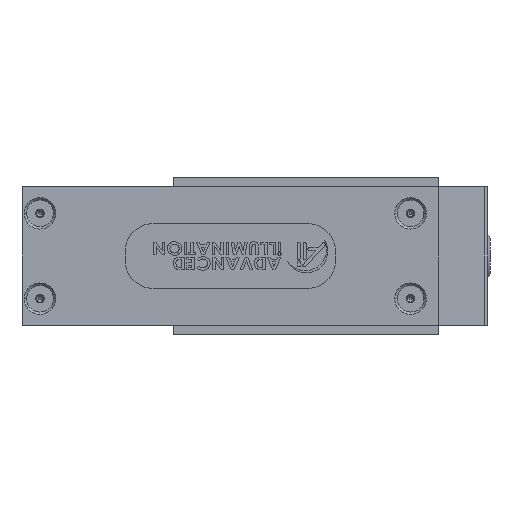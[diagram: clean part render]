
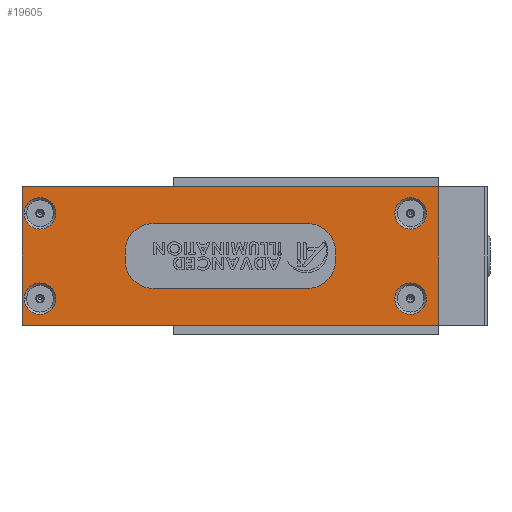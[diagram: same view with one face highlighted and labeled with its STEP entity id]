
A CAD part, left-side view. The second image highlights one B-rep face of the part: STEP entity #19605.
In plain terms, the highlighted planar face has unit normal (-1, 0, 0) as drawn and (0, 0, 1) by its records, which use the part's own axes.
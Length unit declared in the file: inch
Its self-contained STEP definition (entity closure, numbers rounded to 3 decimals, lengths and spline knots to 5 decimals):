
#173 = LINE ( 'NONE', #22856, #26326 ) ;
#481 = VERTEX_POINT ( 'NONE', #1664 ) ;
#636 = EDGE_CURVE ( 'NONE', #25179, #31763, #25381, .T. ) ;
#1089 = AXIS2_PLACEMENT_3D ( 'NONE', #17387, #1936, #23557 ) ;
#1101 = ORIENTED_EDGE ( 'NONE', *, *, #6135, .T. ) ;
#1664 = CARTESIAN_POINT ( 'NONE',  ( 0.3905, 0.238, 0. ) ) ;
#1828 = FACE_BOUND ( 'NONE', #31190, .T. ) ;
#1936 = DIRECTION ( 'NONE',  ( 0., 0., 1. ) ) ;
#2377 = DIRECTION ( 'NONE',  ( 0., 0., 1. ) ) ;
#2678 = VERTEX_POINT ( 'NONE', #38459 ) ;
#3170 = ORIENTED_EDGE ( 'NONE', *, *, #12051, .F. ) ;
#3646 = CIRCLE ( 'NONE', #11235, 0.1405 ) ;
#3693 = AXIS2_PLACEMENT_3D ( 'NONE', #36363, #2377, #24013 ) ;
#4048 = CIRCLE ( 'NONE', #3693, 0.1405 ) ;
#4111 = DIRECTION ( 'NONE',  ( 0., 0., 1. ) ) ;
#6135 = EDGE_CURVE ( 'NONE', #2678, #25179, #25618, .T. ) ;
#6188 = FACE_OUTER_BOUND ( 'NONE', #10035, .T. ) ;
#6273 = DIRECTION ( 'NONE',  ( 0., 0., 1. ) ) ;
#6833 = EDGE_LOOP ( 'NONE', ( #23978, #37593 ) ) ;
#7163 = CARTESIAN_POINT ( 'NONE',  ( 0., 0., 0. ) ) ;
#7355 = CARTESIAN_POINT ( 'NONE',  ( 3.55, 0.238, 0. ) ) ;
#7508 = CARTESIAN_POINT ( 'NONE',  ( 0.25, 0.998, 0. ) ) ;
#8354 = ORIENTED_EDGE ( 'NONE', *, *, #33805, .F. ) ;
#8698 = AXIS2_PLACEMENT_3D ( 'NONE', #7508, #4111, #37966 ) ;
#8779 = ORIENTED_EDGE ( 'NONE', *, *, #22219, .F. ) ;
#9528 = FACE_BOUND ( 'NONE', #6833, .T. ) ;
#9604 = CARTESIAN_POINT ( 'NONE',  ( 3.4095, 0.238, 0. ) ) ;
#9628 = PLANE ( 'NONE',  #27547 ) ;
#9887 = CARTESIAN_POINT ( 'NONE',  ( 3.6905, 0.238, 0. ) ) ;
#10035 = EDGE_LOOP ( 'NONE', ( #10250, #28241, #1101, #14505 ) ) ;
#10250 = ORIENTED_EDGE ( 'NONE', *, *, #35757, .T. ) ;
#10853 = VERTEX_POINT ( 'NONE', #16487 ) ;
#11235 = AXIS2_PLACEMENT_3D ( 'NONE', #21405, #6273, #18443 ) ;
#11433 = CIRCLE ( 'NONE', #39963, 0.1405 ) ;
#11479 = FACE_BOUND ( 'NONE', #26626, .T. ) ;
#12051 = EDGE_CURVE ( 'NONE', #10853, #32422, #4048, .T. ) ;
#12408 = DIRECTION ( 'NONE',  ( 0., 0., 1. ) ) ;
#12719 = CARTESIAN_POINT ( 'NONE',  ( 0.1095, 0.998, 0. ) ) ;
#12745 = CARTESIAN_POINT ( 'NONE',  ( 0., 1.236, 0. ) ) ;
#14092 = CIRCLE ( 'NONE', #29212, 0.1405 ) ;
#14424 = ORIENTED_EDGE ( 'NONE', *, *, #31096, .F. ) ;
#14505 = ORIENTED_EDGE ( 'NONE', *, *, #636, .T. ) ;
#14796 = DIRECTION ( 'NONE',  ( 0., 0., 1. ) ) ;
#15076 = EDGE_CURVE ( 'NONE', #30114, #25997, #15584, .T. ) ;
#15584 = CIRCLE ( 'NONE', #25578, 0.1405 ) ;
#15688 = VERTEX_POINT ( 'NONE', #18122 ) ;
#16028 = DIRECTION ( 'NONE',  ( -1., 0., 0. ) ) ;
#16359 = FACE_BOUND ( 'NONE', #30323, .T. ) ;
#16487 = CARTESIAN_POINT ( 'NONE',  ( 0.3905, 0.998, 0. ) ) ;
#16545 = VERTEX_POINT ( 'NONE', #9887 ) ;
#17081 = VERTEX_POINT ( 'NONE', #31475 ) ;
#17387 = CARTESIAN_POINT ( 'NONE',  ( 3.55, 0.998, 0. ) ) ;
#18122 = CARTESIAN_POINT ( 'NONE',  ( 0., 0., 0. ) ) ;
#18302 = EDGE_CURVE ( 'NONE', #15688, #2678, #35370, .T. ) ;
#18315 = DIRECTION ( 'NONE',  ( 1., 0., 0. ) ) ;
#18443 = DIRECTION ( 'NONE',  ( 1., 0., 0. ) ) ;
#19109 = CARTESIAN_POINT ( 'NONE',  ( 3.4095, 0.998, 0. ) ) ;
#19605 = ADVANCED_FACE ( 'NONE', ( #11479, #16359, #9528, #1828, #6188 ), #9628, .F. ) ;
#20025 = EDGE_CURVE ( 'NONE', #16545, #32449, #3646, .T. ) ;
#20175 = CARTESIAN_POINT ( 'NONE',  ( 3.71, 0., 0. ) ) ;
#21268 = VECTOR ( 'NONE', #23297, 39.37008 ) ;
#21405 = CARTESIAN_POINT ( 'NONE',  ( 3.55, 0.238, 0. ) ) ;
#22219 = EDGE_CURVE ( 'NONE', #32422, #10853, #39108, .T. ) ;
#22447 = DIRECTION ( 'NONE',  ( 0., -1., 0. ) ) ;
#22856 = CARTESIAN_POINT ( 'NONE',  ( 0., 0., 0. ) ) ;
#23297 = DIRECTION ( 'NONE',  ( 0., 1., 0. ) ) ;
#23557 = DIRECTION ( 'NONE',  ( 1., 0., 0. ) ) ;
#23978 = ORIENTED_EDGE ( 'NONE', *, *, #33883, .F. ) ;
#24013 = DIRECTION ( 'NONE',  ( 1., 0., 0. ) ) ;
#24233 = CARTESIAN_POINT ( 'NONE',  ( 0., 1.236, 0. ) ) ;
#25179 = VERTEX_POINT ( 'NONE', #39177 ) ;
#25381 = LINE ( 'NONE', #24233, #37523 ) ;
#25464 = ORIENTED_EDGE ( 'NONE', *, *, #39769, .F. ) ;
#25578 = AXIS2_PLACEMENT_3D ( 'NONE', #33337, #39576, #33065 ) ;
#25618 = LINE ( 'NONE', #20175, #21268 ) ;
#25997 = VERTEX_POINT ( 'NONE', #30543 ) ;
#26235 = ORIENTED_EDGE ( 'NONE', *, *, #20025, .F. ) ;
#26326 = VECTOR ( 'NONE', #22447, 39.37008 ) ;
#26449 = CIRCLE ( 'NONE', #38847, 0.1405 ) ;
#26626 = EDGE_LOOP ( 'NONE', ( #25464, #14424 ) ) ;
#27134 = VECTOR ( 'NONE', #28791, 39.37008 ) ;
#27365 = DIRECTION ( 'NONE',  ( 0., 0., -1. ) ) ;
#27547 = AXIS2_PLACEMENT_3D ( 'NONE', #12745, #27365, #16028 ) ;
#28241 = ORIENTED_EDGE ( 'NONE', *, *, #18302, .T. ) ;
#28791 = DIRECTION ( 'NONE',  ( 1., 0., 0. ) ) ;
#29212 = AXIS2_PLACEMENT_3D ( 'NONE', #34599, #12408, #34075 ) ;
#29833 = CIRCLE ( 'NONE', #1089, 0.1405 ) ;
#30114 = VERTEX_POINT ( 'NONE', #19109 ) ;
#30323 = EDGE_LOOP ( 'NONE', ( #26235, #8354 ) ) ;
#30373 = CARTESIAN_POINT ( 'NONE',  ( 0., 1.236, 0. ) ) ;
#30543 = CARTESIAN_POINT ( 'NONE',  ( 3.6905, 0.998, 0. ) ) ;
#31096 = EDGE_CURVE ( 'NONE', #17081, #481, #14092, .T. ) ;
#31190 = EDGE_LOOP ( 'NONE', ( #3170, #8779 ) ) ;
#31475 = CARTESIAN_POINT ( 'NONE',  ( 0.1095, 0.238, 0. ) ) ;
#31763 = VERTEX_POINT ( 'NONE', #30373 ) ;
#32088 = DIRECTION ( 'NONE',  ( 0., 0., 1. ) ) ;
#32373 = DIRECTION ( 'NONE',  ( 1., 0., 0. ) ) ;
#32422 = VERTEX_POINT ( 'NONE', #12719 ) ;
#32449 = VERTEX_POINT ( 'NONE', #9604 ) ;
#33065 = DIRECTION ( 'NONE',  ( 1., 0., 0. ) ) ;
#33297 = DIRECTION ( 'NONE',  ( -1., 0., 0. ) ) ;
#33337 = CARTESIAN_POINT ( 'NONE',  ( 3.55, 0.998, 0. ) ) ;
#33805 = EDGE_CURVE ( 'NONE', #32449, #16545, #11433, .T. ) ;
#33883 = EDGE_CURVE ( 'NONE', #25997, #30114, #29833, .T. ) ;
#34075 = DIRECTION ( 'NONE',  ( 1., 0., 0. ) ) ;
#34599 = CARTESIAN_POINT ( 'NONE',  ( 0.25, 0.238, 0. ) ) ;
#35370 = LINE ( 'NONE', #7163, #27134 ) ;
#35757 = EDGE_CURVE ( 'NONE', #31763, #15688, #173, .T. ) ;
#36363 = CARTESIAN_POINT ( 'NONE',  ( 0.25, 0.998, 0. ) ) ;
#36870 = CARTESIAN_POINT ( 'NONE',  ( 0.25, 0.238, 0. ) ) ;
#37523 = VECTOR ( 'NONE', #33297, 39.37008 ) ;
#37593 = ORIENTED_EDGE ( 'NONE', *, *, #15076, .F. ) ;
#37966 = DIRECTION ( 'NONE',  ( 1., 0., 0. ) ) ;
#38459 = CARTESIAN_POINT ( 'NONE',  ( 3.71, 0., 0. ) ) ;
#38847 = AXIS2_PLACEMENT_3D ( 'NONE', #36870, #14796, #18315 ) ;
#39108 = CIRCLE ( 'NONE', #8698, 0.1405 ) ;
#39177 = CARTESIAN_POINT ( 'NONE',  ( 3.71, 1.236, 0. ) ) ;
#39576 = DIRECTION ( 'NONE',  ( 0., 0., 1. ) ) ;
#39769 = EDGE_CURVE ( 'NONE', #481, #17081, #26449, .T. ) ;
#39963 = AXIS2_PLACEMENT_3D ( 'NONE', #7355, #32088, #32373 ) ;
